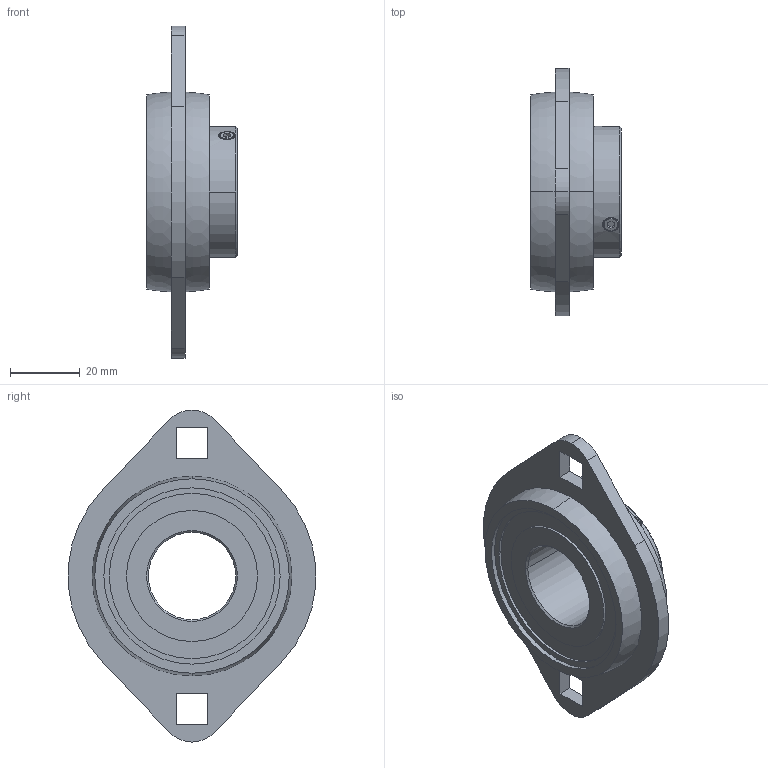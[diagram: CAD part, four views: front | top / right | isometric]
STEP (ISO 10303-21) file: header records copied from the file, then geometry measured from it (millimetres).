
FILE_DESCRIPTION (( 'STEP AP214' ), '1' );
FILE_NAME ('4.0029 Laakeri SBPFL205.STEP', '2025-09-24T07:28:44', ( '' ), ( '' ), 'SwSTEP 2.0', 'SolidWorks 2025', '' );
FILE_SCHEMA (( 'AUTOMOTIVE_DESIGN' ));
Length unit declared in the file: millimetre
Products named in the file (1): 4.0029 Laakeri SBPFL205
Bounding box: 26 x 70.75 x 95 mm (x, y, z)
Volume: 43918.6 mm3; surface area: 15315.2 mm2
Topology: 1 solids, 1 shells, 84 faces, 197 edges, 128 vertices
Faces by surface type: plane 41, cylinder 21, cone 14, torus 8
Entity records: 2765 total; most frequent: CARTESIAN_POINT 702, DIRECTION 439, ORIENTED_EDGE 394, EDGE_CURVE 197, AXIS2_PLACEMENT_3D 165, VERTEX_POINT 128, VECTOR 109, LINE 109
